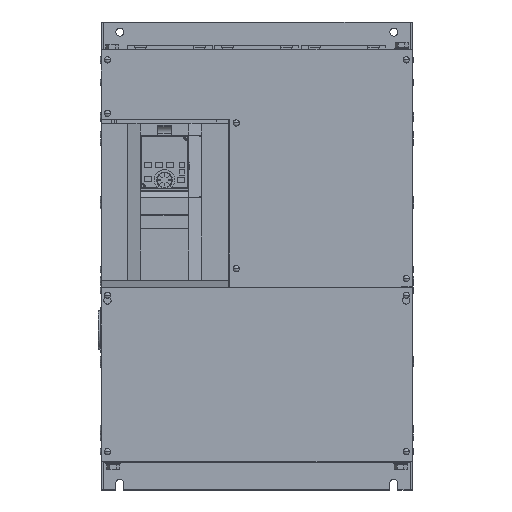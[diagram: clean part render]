
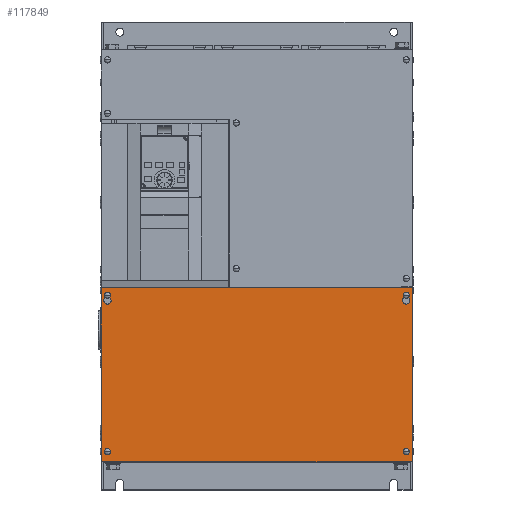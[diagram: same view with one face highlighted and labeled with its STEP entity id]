
A CAD part, top view. The second image highlights one B-rep face of the part: STEP entity #117849.
In plain terms, the highlighted planar face has unit normal (0, 0, 1).
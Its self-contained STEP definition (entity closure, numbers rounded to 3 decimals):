
#117467=DIRECTION('',(0.,1.,0.));
#117468=VECTOR('',#117467,260.);
#117469=CARTESIAN_POINT('',(0.,0.,1.6));
#117470=LINE('',#117469,#117468);
#117483=DIRECTION('',(1.,0.,0.));
#117484=VECTOR('',#117483,465.);
#117485=CARTESIAN_POINT('',(0.,0.,1.6));
#117486=LINE('',#117485,#117484);
#117487=CARTESIAN_POINT('',(9.,15.,1.6));
#117488=DIRECTION('',(0.,0.,1.));
#117489=DIRECTION('',(1.,0.,0.));
#117490=AXIS2_PLACEMENT_3D('',#117487,#117488,#117489);
#117492=CARTESIAN_POINT('',(9.,15.,1.6));
#117493=DIRECTION('',(0.,0.,1.));
#117494=DIRECTION('',(-1.,0.,0.));
#117495=AXIS2_PLACEMENT_3D('',#117492,#117493,#117494);
#117497=CARTESIAN_POINT('',(456.,15.,1.6));
#117498=DIRECTION('',(0.,0.,1.));
#117499=DIRECTION('',(1.,0.,0.));
#117500=AXIS2_PLACEMENT_3D('',#117497,#117498,#117499);
#117502=CARTESIAN_POINT('',(456.,15.,1.6));
#117503=DIRECTION('',(0.,0.,1.));
#117504=DIRECTION('',(-1.,0.,0.));
#117505=AXIS2_PLACEMENT_3D('',#117502,#117503,#117504);
#117507=DIRECTION('',(0.,-1.,0.));
#117508=VECTOR('',#117507,3.39);
#117509=CARTESIAN_POINT('',(6.,249.,1.6));
#117510=LINE('',#117509,#117508);
#117511=CARTESIAN_POINT('',(9.,241.,1.6));
#117512=DIRECTION('',(0.,0.,1.));
#117513=DIRECTION('',(-0.545,0.838,0.));
#117514=AXIS2_PLACEMENT_3D('',#117511,#117512,#117513);
#117516=DIRECTION('',(0.,1.,0.));
#117517=VECTOR('',#117516,3.39);
#117518=CARTESIAN_POINT('',(12.,245.61,1.6));
#117519=LINE('',#117518,#117517);
#117520=CARTESIAN_POINT('',(9.,249.,1.6));
#117521=DIRECTION('',(0.,0.,1.));
#117522=DIRECTION('',(1.,0.,0.));
#117523=AXIS2_PLACEMENT_3D('',#117520,#117521,#117522);
#117525=DIRECTION('',(0.,-1.,0.));
#117526=VECTOR('',#117525,3.39);
#117527=CARTESIAN_POINT('',(453.,249.,1.6));
#117528=LINE('',#117527,#117526);
#117529=CARTESIAN_POINT('',(456.,241.,1.6));
#117530=DIRECTION('',(0.,0.,1.));
#117531=DIRECTION('',(-0.545,0.838,0.));
#117532=AXIS2_PLACEMENT_3D('',#117529,#117530,#117531);
#117534=DIRECTION('',(0.,1.,0.));
#117535=VECTOR('',#117534,3.39);
#117536=CARTESIAN_POINT('',(459.,245.61,1.6));
#117537=LINE('',#117536,#117535);
#117538=CARTESIAN_POINT('',(456.,249.,1.6));
#117539=DIRECTION('',(0.,0.,1.));
#117540=DIRECTION('',(1.,0.,0.));
#117541=AXIS2_PLACEMENT_3D('',#117538,#117539,#117540);
#117543=DIRECTION('',(1.,0.,0.));
#117544=VECTOR('',#117543,465.);
#117545=CARTESIAN_POINT('',(0.,260.,1.6));
#117546=LINE('',#117545,#117544);
#117619=DIRECTION('',(0.,1.,0.));
#117620=VECTOR('',#117619,260.);
#117621=CARTESIAN_POINT('',(465.,0.,1.6));
#117622=LINE('',#117621,#117620);
#117687=CARTESIAN_POINT('',(0.,0.,1.6));
#117688=VERTEX_POINT('',#117687);
#117689=CARTESIAN_POINT('',(0.,260.,1.6));
#117690=VERTEX_POINT('',#117689);
#117699=CARTESIAN_POINT('',(465.,0.,1.6));
#117700=VERTEX_POINT('',#117699);
#117701=CARTESIAN_POINT('',(465.,260.,1.6));
#117702=VERTEX_POINT('',#117701);
#117707=CARTESIAN_POINT('',(12.,15.,1.6));
#117708=CARTESIAN_POINT('',(6.,15.,1.6));
#117709=VERTEX_POINT('',#117707);
#117710=VERTEX_POINT('',#117708);
#117711=CARTESIAN_POINT('',(459.,15.,1.6));
#117712=CARTESIAN_POINT('',(453.,15.,1.6));
#117713=VERTEX_POINT('',#117711);
#117714=VERTEX_POINT('',#117712);
#117723=CARTESIAN_POINT('',(6.,249.,1.6));
#117724=CARTESIAN_POINT('',(6.,245.61,1.6));
#117725=VERTEX_POINT('',#117723);
#117726=VERTEX_POINT('',#117724);
#117727=CARTESIAN_POINT('',(12.,245.61,1.6));
#117728=VERTEX_POINT('',#117727);
#117729=CARTESIAN_POINT('',(12.,249.,1.6));
#117730=VERTEX_POINT('',#117729);
#117731=CARTESIAN_POINT('',(453.,249.,1.6));
#117732=CARTESIAN_POINT('',(453.,245.61,1.6));
#117733=VERTEX_POINT('',#117731);
#117734=VERTEX_POINT('',#117732);
#117735=CARTESIAN_POINT('',(459.,245.61,1.6));
#117736=VERTEX_POINT('',#117735);
#117737=CARTESIAN_POINT('',(459.,249.,1.6));
#117738=VERTEX_POINT('',#117737);
#117804=CARTESIAN_POINT('',(0.,0.,1.6));
#117805=DIRECTION('',(0.,0.,1.));
#117806=DIRECTION('',(0.,1.,0.));
#117807=AXIS2_PLACEMENT_3D('',#117804,#117805,#117806);
#117808=PLANE('',#117807);
#117809=ORIENTED_EDGE('',*,*,#117768,.T.);
#117811=ORIENTED_EDGE('',*,*,#117810,.T.);
#117813=ORIENTED_EDGE('',*,*,#117812,.F.);
#117814=ORIENTED_EDGE('',*,*,#117796,.F.);
#117815=EDGE_LOOP('',(#117809,#117811,#117813,#117814));
#117816=FACE_OUTER_BOUND('',#117815,.F.);
#117818=ORIENTED_EDGE('',*,*,#117817,.T.);
#117820=ORIENTED_EDGE('',*,*,#117819,.T.);
#117821=EDGE_LOOP('',(#117818,#117820));
#117822=FACE_BOUND('',#117821,.F.);
#117824=ORIENTED_EDGE('',*,*,#117823,.T.);
#117826=ORIENTED_EDGE('',*,*,#117825,.T.);
#117827=EDGE_LOOP('',(#117824,#117826));
#117828=FACE_BOUND('',#117827,.F.);
#117830=ORIENTED_EDGE('',*,*,#117829,.T.);
#117832=ORIENTED_EDGE('',*,*,#117831,.T.);
#117834=ORIENTED_EDGE('',*,*,#117833,.T.);
#117836=ORIENTED_EDGE('',*,*,#117835,.T.);
#117837=EDGE_LOOP('',(#117830,#117832,#117834,#117836));
#117838=FACE_BOUND('',#117837,.F.);
#117840=ORIENTED_EDGE('',*,*,#117839,.T.);
#117842=ORIENTED_EDGE('',*,*,#117841,.T.);
#117844=ORIENTED_EDGE('',*,*,#117843,.T.);
#117846=ORIENTED_EDGE('',*,*,#117845,.T.);
#117847=EDGE_LOOP('',(#117840,#117842,#117844,#117846));
#117848=FACE_BOUND('',#117847,.F.);
#117849=ADVANCED_FACE('',(#117816,#117822,#117828,#117838,#117848),#117808,.T.);
#117491=CIRCLE('',#117490,3.);
#117496=CIRCLE('',#117495,3.);
#117501=CIRCLE('',#117500,3.);
#117506=CIRCLE('',#117505,3.);
#117515=CIRCLE('',#117514,5.5);
#117524=CIRCLE('',#117523,3.);
#117533=CIRCLE('',#117532,5.5);
#117542=CIRCLE('',#117541,3.);
#117768=EDGE_CURVE('',#117688,#117690,#117470,.T.);
#117796=EDGE_CURVE('',#117688,#117700,#117486,.T.);
#117810=EDGE_CURVE('',#117690,#117702,#117546,.T.);
#117812=EDGE_CURVE('',#117700,#117702,#117622,.T.);
#117817=EDGE_CURVE('',#117709,#117710,#117491,.T.);
#117819=EDGE_CURVE('',#117710,#117709,#117496,.T.);
#117823=EDGE_CURVE('',#117713,#117714,#117501,.T.);
#117825=EDGE_CURVE('',#117714,#117713,#117506,.T.);
#117829=EDGE_CURVE('',#117725,#117726,#117510,.T.);
#117831=EDGE_CURVE('',#117726,#117728,#117515,.T.);
#117833=EDGE_CURVE('',#117728,#117730,#117519,.T.);
#117835=EDGE_CURVE('',#117730,#117725,#117524,.T.);
#117839=EDGE_CURVE('',#117733,#117734,#117528,.T.);
#117841=EDGE_CURVE('',#117734,#117736,#117533,.T.);
#117843=EDGE_CURVE('',#117736,#117738,#117537,.T.);
#117845=EDGE_CURVE('',#117738,#117733,#117542,.T.);
